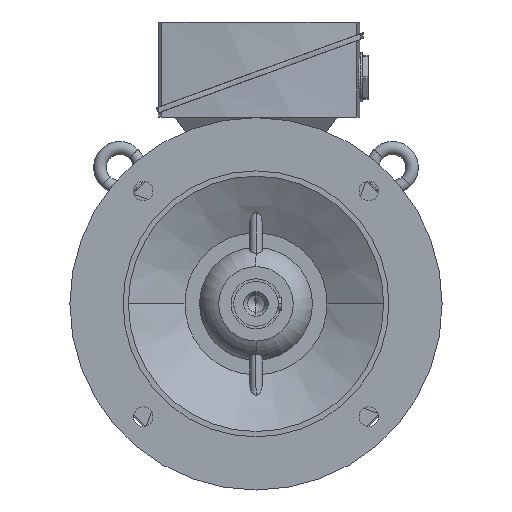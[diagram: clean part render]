
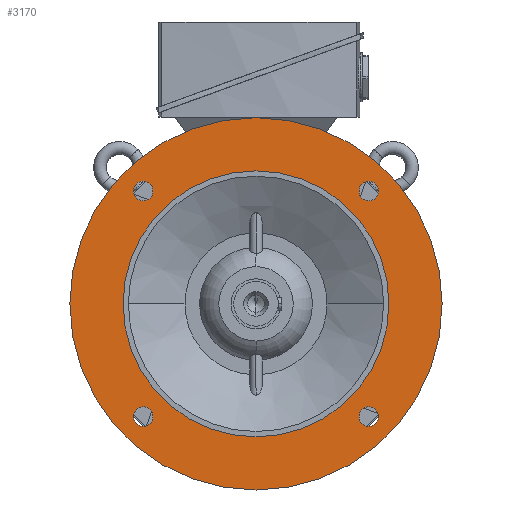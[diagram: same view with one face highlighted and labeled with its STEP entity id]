
A CAD part, left-side view. The second image highlights one B-rep face of the part: STEP entity #3170.
In plain terms, the highlighted planar face has unit normal (-1, 0, 0).
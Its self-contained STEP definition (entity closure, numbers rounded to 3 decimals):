
#3170=ADVANCED_FACE('',(#6407,#6408,#6409,#6410,#6411,#6412),#6413,.T.);
#6407=FACE_BOUND('',#9652,.T.);
#6408=FACE_BOUND('',#9653,.T.);
#6409=FACE_BOUND('',#9654,.T.);
#6410=FACE_BOUND('',#9655,.T.);
#6411=FACE_OUTER_BOUND('',#9656,.T.);
#6412=FACE_BOUND('',#9657,.T.);
#6413=PLANE('',#9658);
#9652=EDGE_LOOP('',(#19569,#19570));
#9653=EDGE_LOOP('',(#19571,#19572));
#9654=EDGE_LOOP('',(#19573,#19574));
#9655=EDGE_LOOP('',(#19575,#19576));
#9656=EDGE_LOOP('',(#19577,#19578));
#9657=EDGE_LOOP('',(#19579,#19580));
#9658=AXIS2_PLACEMENT_3D('',#19581,#19582,#19583);
#19569=ORIENTED_EDGE('',*,*,#23515,.T.);
#19570=ORIENTED_EDGE('',*,*,#19856,.T.);
#19571=ORIENTED_EDGE('',*,*,#23518,.T.);
#19572=ORIENTED_EDGE('',*,*,#19851,.T.);
#19573=ORIENTED_EDGE('',*,*,#23521,.T.);
#19574=ORIENTED_EDGE('',*,*,#19846,.T.);
#19575=ORIENTED_EDGE('',*,*,#23524,.T.);
#19576=ORIENTED_EDGE('',*,*,#19841,.T.);
#19577=ORIENTED_EDGE('',*,*,#19831,.F.);
#19578=ORIENTED_EDGE('',*,*,#23567,.F.);
#19579=ORIENTED_EDGE('',*,*,#19838,.T.);
#19580=ORIENTED_EDGE('',*,*,#23565,.T.);
#19581=CARTESIAN_POINT('',(-80.0,150.0,0.0));
#19582=DIRECTION('',(-1.0,0.0,0.0));
#19583=DIRECTION('',(0.0,-1.0,0.0));
#19831=EDGE_CURVE('',#23852,#23855,#23856,.T.);
#19838=EDGE_CURVE('',#23862,#23866,#23868,.T.);
#19841=EDGE_CURVE('',#23873,#23870,#23874,.T.);
#19846=EDGE_CURVE('',#23882,#23879,#23883,.T.);
#19851=EDGE_CURVE('',#23891,#23888,#23892,.T.);
#19856=EDGE_CURVE('',#23900,#23897,#23901,.T.);
#23515=EDGE_CURVE('',#23897,#23900,#29334,.T.);
#23518=EDGE_CURVE('',#23888,#23891,#29337,.T.);
#23521=EDGE_CURVE('',#23879,#23882,#29340,.T.);
#23524=EDGE_CURVE('',#23870,#23873,#29343,.T.);
#23565=EDGE_CURVE('',#23866,#23862,#29392,.T.);
#23567=EDGE_CURVE('',#23855,#23852,#29394,.T.);
#23852=VERTEX_POINT('',#29985);
#23855=VERTEX_POINT('',#29989);
#23856=CIRCLE('',#29990,175.0);
#23862=VERTEX_POINT('',#29997);
#23866=VERTEX_POINT('',#30002);
#23868=CIRCLE('',#30005,125.0);
#23870=VERTEX_POINT('',#30007);
#23873=VERTEX_POINT('',#30011);
#23874=CIRCLE('',#30012,9.25);
#23879=VERTEX_POINT('',#30018);
#23882=VERTEX_POINT('',#30022);
#23883=CIRCLE('',#30023,9.25);
#23888=VERTEX_POINT('',#30029);
#23891=VERTEX_POINT('',#30033);
#23892=CIRCLE('',#30034,9.25);
#23897=VERTEX_POINT('',#30040);
#23900=VERTEX_POINT('',#30044);
#23901=CIRCLE('',#30045,9.25);
#29334=CIRCLE('',#46658,9.25);
#29337=CIRCLE('',#46661,9.25);
#29340=CIRCLE('',#46664,9.25);
#29343=CIRCLE('',#46667,9.25);
#29392=CIRCLE('',#46736,125.0);
#29394=CIRCLE('',#46738,175.0);
#29985=CARTESIAN_POINT('',(-80.0,175.0,0.0));
#29989=CARTESIAN_POINT('',(-80.0,-175.0,0.));
#29990=AXIS2_PLACEMENT_3D('',#46916,#46917,#46918);
#29997=CARTESIAN_POINT('',(-80.0,125.0,0.0));
#30002=CARTESIAN_POINT('',(-80.0,-125.0,0.));
#30005=AXIS2_PLACEMENT_3D('',#46928,#46929,#46930);
#30007=CARTESIAN_POINT('',(-80.0,-112.607,112.607));
#30011=CARTESIAN_POINT('',(-80.0,-99.525,99.525));
#30012=AXIS2_PLACEMENT_3D('',#46932,#46933,#46934);
#30018=CARTESIAN_POINT('',(-80.0,112.607,112.607));
#30022=CARTESIAN_POINT('',(-80.0,99.525,99.525));
#30023=AXIS2_PLACEMENT_3D('',#46940,#46941,#46942);
#30029=CARTESIAN_POINT('',(-80.0,112.607,-112.607));
#30033=CARTESIAN_POINT('',(-80.0,99.525,-99.525));
#30034=AXIS2_PLACEMENT_3D('',#46948,#46949,#46950);
#30040=CARTESIAN_POINT('',(-80.0,-112.607,-112.607));
#30044=CARTESIAN_POINT('',(-80.0,-99.525,-99.525));
#30045=AXIS2_PLACEMENT_3D('',#46956,#46957,#46958);
#46658=AXIS2_PLACEMENT_3D('',#50222,#50223,#50224);
#46661=AXIS2_PLACEMENT_3D('',#50228,#50229,#50230);
#46664=AXIS2_PLACEMENT_3D('',#50234,#50235,#50236);
#46667=AXIS2_PLACEMENT_3D('',#50240,#50241,#50242);
#46736=AXIS2_PLACEMENT_3D('',#50269,#50270,#50271);
#46738=AXIS2_PLACEMENT_3D('',#50272,#50273,#50274);
#46916=CARTESIAN_POINT('',(-80.0,0.0,0.0));
#46917=DIRECTION('',(1.0,0.0,0.0));
#46918=DIRECTION('',(0.0,1.0,0.0));
#46928=CARTESIAN_POINT('',(-80.0,0.0,0.0));
#46929=DIRECTION('',(1.0,0.0,0.0));
#46930=DIRECTION('',(0.0,1.0,0.0));
#46932=CARTESIAN_POINT('',(-80.0,-106.066,106.066));
#46933=DIRECTION('',(1.0,0.0,-0.0));
#46934=DIRECTION('',(0.0,-0.707,0.707));
#46940=CARTESIAN_POINT('',(-80.0,106.066,106.066));
#46941=DIRECTION('',(1.0,0.0,-0.0));
#46942=DIRECTION('',(0.0,0.707,0.707));
#46948=CARTESIAN_POINT('',(-80.0,106.066,-106.066));
#46949=DIRECTION('',(1.0,-0.0,0.0));
#46950=DIRECTION('',(0.0,0.707,-0.707));
#46956=CARTESIAN_POINT('',(-80.0,-106.066,-106.066));
#46957=DIRECTION('',(1.0,0.0,0.0));
#46958=DIRECTION('',(0.0,-0.707,-0.707));
#50222=CARTESIAN_POINT('',(-80.0,-106.066,-106.066));
#50223=DIRECTION('',(1.0,0.0,0.0));
#50224=DIRECTION('',(0.0,-0.707,-0.707));
#50228=CARTESIAN_POINT('',(-80.0,106.066,-106.066));
#50229=DIRECTION('',(1.0,-0.0,0.0));
#50230=DIRECTION('',(0.0,0.707,-0.707));
#50234=CARTESIAN_POINT('',(-80.0,106.066,106.066));
#50235=DIRECTION('',(1.0,0.0,-0.0));
#50236=DIRECTION('',(0.0,0.707,0.707));
#50240=CARTESIAN_POINT('',(-80.0,-106.066,106.066));
#50241=DIRECTION('',(1.0,0.0,-0.0));
#50242=DIRECTION('',(0.0,-0.707,0.707));
#50269=CARTESIAN_POINT('',(-80.0,0.0,0.0));
#50270=DIRECTION('',(1.0,0.0,0.0));
#50271=DIRECTION('',(0.0,1.0,0.0));
#50272=CARTESIAN_POINT('',(-80.0,0.0,0.0));
#50273=DIRECTION('',(1.0,0.0,0.0));
#50274=DIRECTION('',(0.0,1.0,0.0));
